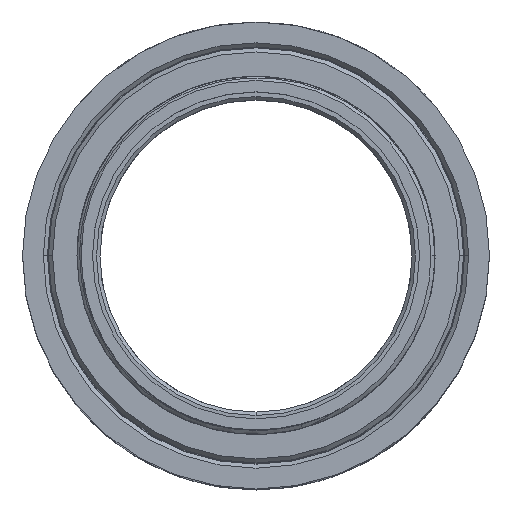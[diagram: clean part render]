
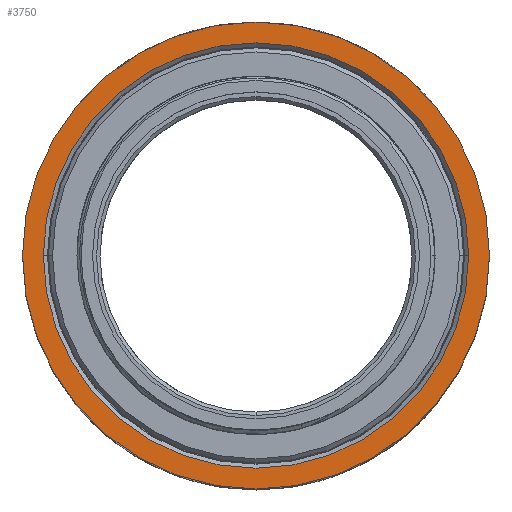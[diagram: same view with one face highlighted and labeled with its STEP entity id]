
A CAD part, top view. The second image highlights one B-rep face of the part: STEP entity #3750.
In plain terms, the highlighted planar face has unit normal (0, 0, 1).
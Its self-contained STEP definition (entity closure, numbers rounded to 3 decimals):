
#2817=CARTESIAN_POINT('',(0.,0.,-18.481));
#2818=DIRECTION('',(0.,0.,1.));
#2819=DIRECTION('',(-1.,0.,0.));
#2820=AXIS2_PLACEMENT_3D('',#2817,#2818,#2819);
#2822=CARTESIAN_POINT('',(0.,0.,-18.481));
#2823=DIRECTION('',(0.,0.,1.));
#2824=DIRECTION('',(1.,0.,0.));
#2825=AXIS2_PLACEMENT_3D('',#2822,#2823,#2824);
#2827=CARTESIAN_POINT('',(0.,0.,-18.481));
#2828=DIRECTION('',(0.,0.,-1.));
#2829=DIRECTION('',(1.,0.,0.));
#2830=AXIS2_PLACEMENT_3D('',#2827,#2828,#2829);
#2832=CARTESIAN_POINT('',(0.,0.,-18.481));
#2833=DIRECTION('',(0.,0.,-1.));
#2834=DIRECTION('',(-1.,0.,0.));
#2835=AXIS2_PLACEMENT_3D('',#2832,#2833,#2834);
#2841=CARTESIAN_POINT('',(-17.145,0.,-18.481));
#2842=CARTESIAN_POINT('',(17.145,0.,-18.481));
#2843=VERTEX_POINT('',#2841);
#2844=VERTEX_POINT('',#2842);
#2967=CARTESIAN_POINT('',(15.616,0.,-18.481));
#2968=CARTESIAN_POINT('',(-15.616,0.,-18.481));
#2969=VERTEX_POINT('',#2967);
#2970=VERTEX_POINT('',#2968);
#3736=CARTESIAN_POINT('',(0.,0.,-18.481));
#3737=DIRECTION('',(0.,0.,1.));
#3738=DIRECTION('',(-1.,0.,0.));
#3739=AXIS2_PLACEMENT_3D('',#3736,#3737,#3738);
#3740=PLANE('',#3739);
#3741=ORIENTED_EDGE('',*,*,#3183,.F.);
#3742=ORIENTED_EDGE('',*,*,#3144,.F.);
#3743=EDGE_LOOP('',(#3741,#3742));
#3744=FACE_OUTER_BOUND('',#3743,.F.);
#3746=ORIENTED_EDGE('',*,*,#3745,.F.);
#3747=ORIENTED_EDGE('',*,*,#3726,.F.);
#3748=EDGE_LOOP('',(#3746,#3747));
#3749=FACE_BOUND('',#3748,.F.);
#3750=ADVANCED_FACE('',(#3744,#3749),#3740,.T.);
#2821=CIRCLE('',#2820,17.145);
#2826=CIRCLE('',#2825,17.145);
#2831=CIRCLE('',#2830,15.616);
#2836=CIRCLE('',#2835,15.616);
#3144=EDGE_CURVE('',#2844,#2843,#2826,.T.);
#3183=EDGE_CURVE('',#2843,#2844,#2821,.T.);
#3726=EDGE_CURVE('',#2970,#2969,#2836,.T.);
#3745=EDGE_CURVE('',#2969,#2970,#2831,.T.);
